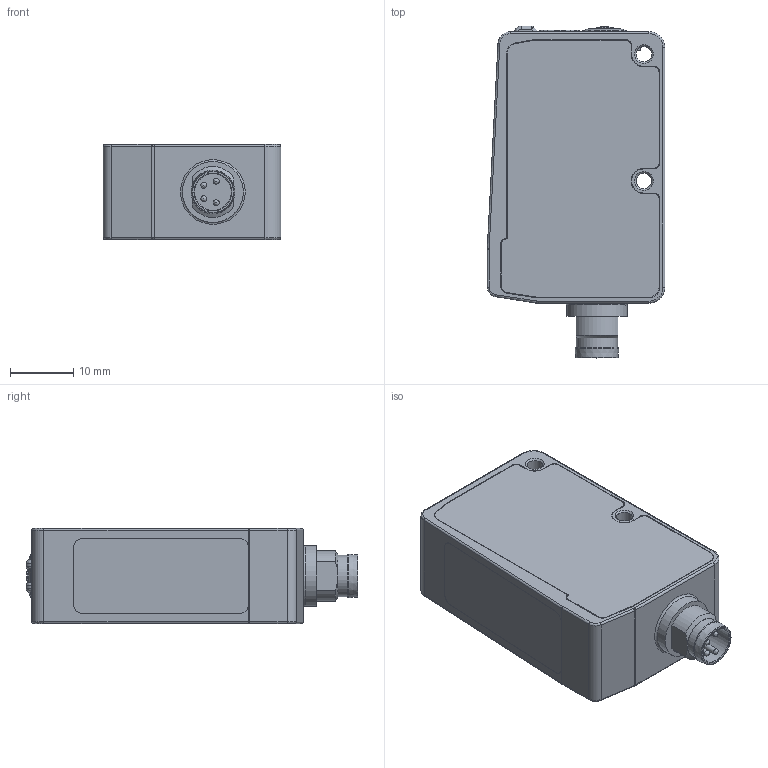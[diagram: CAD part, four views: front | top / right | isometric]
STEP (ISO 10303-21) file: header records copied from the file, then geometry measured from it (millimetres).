
FILE_DESCRIPTION(/* description */ (''),/* implementation_level */ '2;1');
FILE_NAME(/* name */ 'DSD-1027.stp',/* time_stamp */ '2020-09-21T12:59:25+02:00',/* author */ (''),/* organization */ (''),/* preprocessor_version */ 'ST-DEVELOPER v16.7',/* originating_system */ 'SIEMENS PLM Software NX 12.0',/* authorisation */ '');
FILE_SCHEMA (('AUTOMOTIVE_DESIGN { 1 0 10303 214 3 1 1 1 }'));
Length unit declared in the file: millimetre
Products named in the file (1): MBra1AA8D80Dzzch
Bounding box: 28 x 52.35 x 15 mm (x, y, z)
Volume: 17263.8 mm3; surface area: 5803.5 mm2
Topology: 1 solids, 4 shells, 289 faces, 703 edges, 437 vertices
Faces by surface type: cylinder 110, plane 103, bspline 29, torus 25, cone 12, sphere 8, extrusion 2
Full cylindrical faces by diameter (mm): 0.95 x4, 2.45 x2, 2.95 x1, 5.77 x1, 6.52 x1, 6.9 x1, 9.6 x1
Entity records: 9864 total; most frequent: CARTESIAN_POINT 2465, DIRECTION 1408, ORIENTED_EDGE 1296, EDGE_CURVE 648, AXIS2_PLACEMENT_3D 559, VERTEX_POINT 424, EDGE_LOOP 354, VECTOR 290
